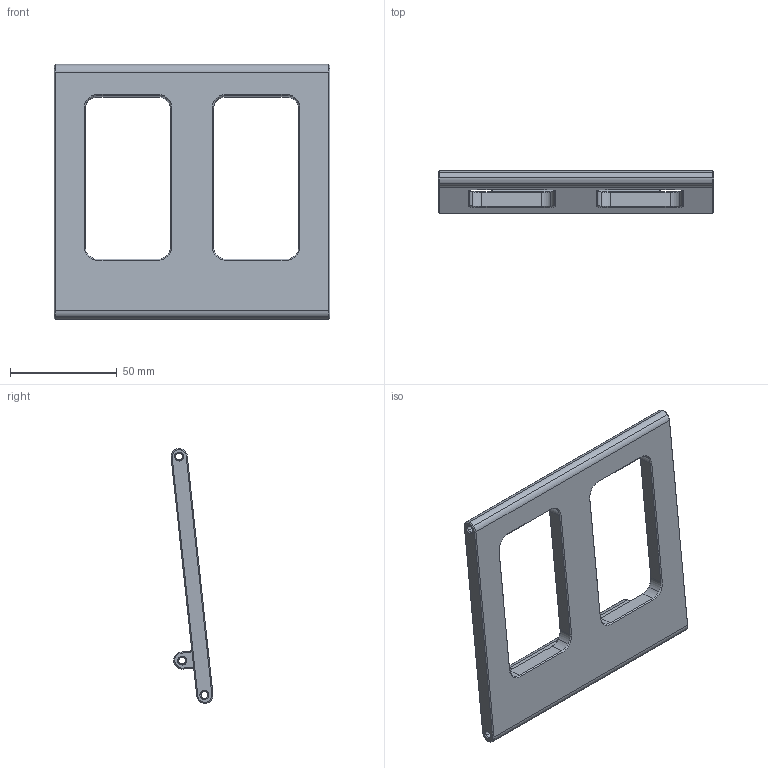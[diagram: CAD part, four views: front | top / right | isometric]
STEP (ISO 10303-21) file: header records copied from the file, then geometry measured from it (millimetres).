
FILE_DESCRIPTION(('STEP AP214'),'1');
FILE_NAME('Tray5.STP','2024-09-09T07:52:59',(' '),(' '),'Spatial InterOp 3D',' ',' ');
FILE_SCHEMA(('AUTOMOTIVE_DESIGN { 1 0 10303 214 1 1 1 1 }'));
Length unit declared in the file: millimetre
Products named in the file (1): Quader
Bounding box: 129 x 19.6 x 119.31 mm (x, y, z)
Volume: 71897.2 mm3; surface area: 29176.6 mm2
Topology: 1 solids, 1 shells, 148 faces, 351 edges, 206 vertices
Faces by surface type: cone 72, plane 40, cylinder 36
Entity records: 4254 total; most frequent: DIRECTION 787, CARTESIAN_POINT 734, ORIENTED_EDGE 702, EDGE_CURVE 351, AXIS2_PLACEMENT_3D 299, VERTEX_POINT 206, LINE 189, VECTOR 189
